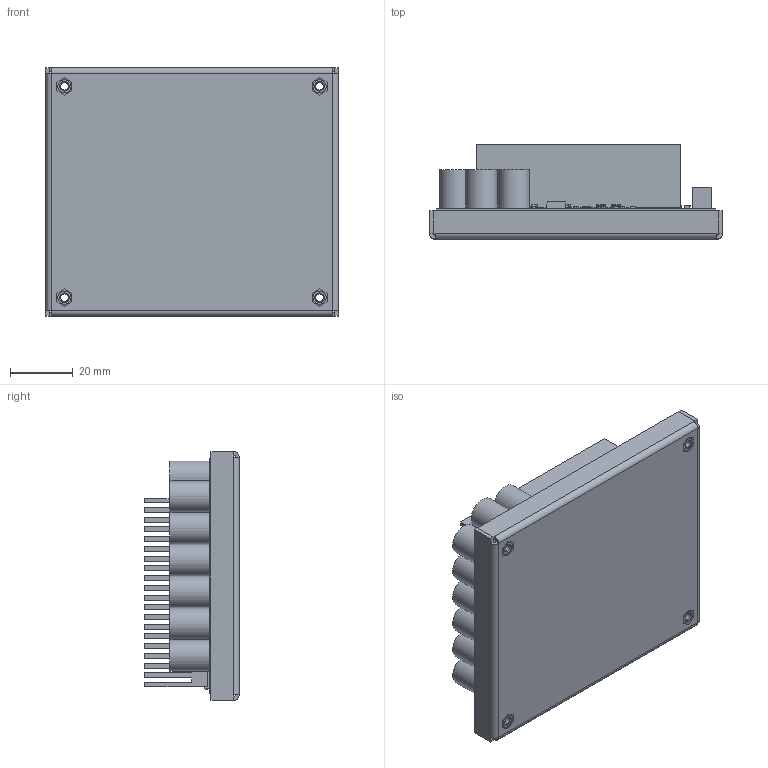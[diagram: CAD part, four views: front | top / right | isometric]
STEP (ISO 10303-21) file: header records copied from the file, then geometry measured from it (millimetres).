
FILE_DESCRIPTION(/* description */ ('Alibre Inc.'),/* implementation_level */ '2;1');
FILE_NAME(/* name */ 'export-ABD7F541-DED2-4448-A5BC-6666C278B32C',/* time_stamp */ '2026-09-21T15:17:49-06:00',/* author */ (''),/* organization */ (''),/* preprocessor_version */ 'ST-DEVELOPER v17',/* originating_system */ 'Alibre',/* authorisation */ '');
FILE_SCHEMA (('CONFIG_CONTROL_DESIGN'));
Length unit declared in the file: centimetre
Products named in the file (109): 6141629184; 6141628992; R12; C25; 6141628800; 6141628608; J6; 6141627264; R10; 6141627072; C24; C22; User_Library-SOT-23-5; U3; R8; 6141626880; 6141626688; R7; R5; C21; C20; 6141626496; 6141626304; C19; C18; C16; C15; 6141625920; 6141625728; C17; User_Library-SOT-23-1; U2; C14; U1; C5; 6141625536; Q3; C2; C23; 6141627648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
Bounding box: 93.26 x 30.13 x 79.29 mm (x, y, z)
Volume: 83556.9 mm3; surface area: 97684.2 mm2
Topology: 123 solids, 123 shells, 1320 faces, 3019 edges, 1962 vertices
Faces by surface type: plane 1021, cylinder 265, cone 16, bspline 16, sphere 2
Full cylindrical faces by diameter (mm): 1 x16, 1.067 x16, 1.8 x4, 2.175 x4, 3.175 x4, 4.22 x4, 10 x8
Entity records: 34204 total; most frequent: CARTESIAN_POINT 4545, DIRECTION 3435, ORIENTED_EDGE 3346, EDGE_CURVE 1673, AXIS2_PLACEMENT_3D 1318, VECTOR 1265, LINE 1265, PERSON_AND_ORGANIZATION 1258
